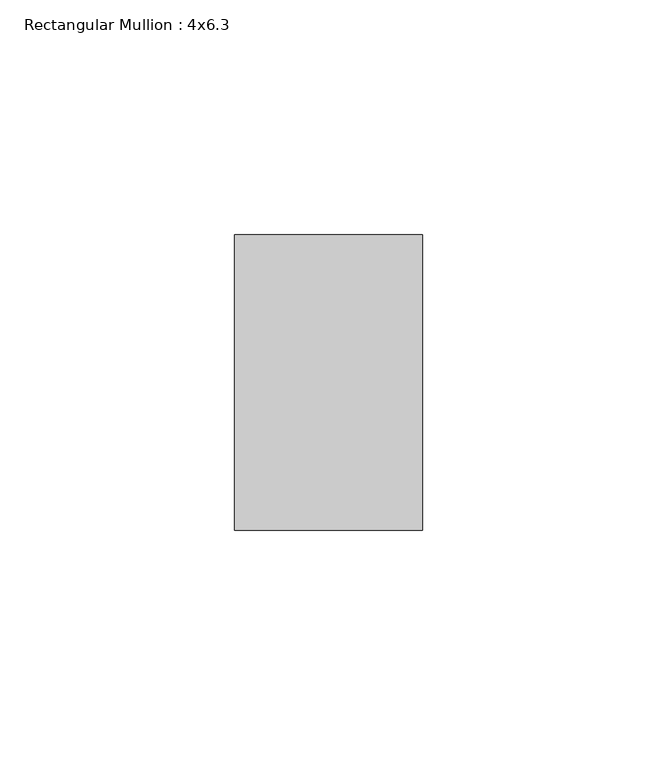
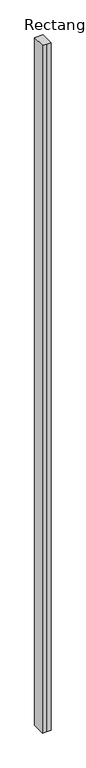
"""IFC4 building model written with IfcOpenShell, lengths in millimetres: member geometry, Rectangular Mullion : 4x6.3."""

from ifc_helpers import new_model, si_unit, frame, origin, place, context, project, spatial, polyline, outline, extrude, source, transform, mapped, element, save


def rectangular_mullion_4x6_3_50748488(model_context):
    return source(origin(), model_context, "Body", "SweptSolid", [
        extrude(outline(polyline([(-20.0, 20.0), (-20.0, 83.0), (20.0, 83.0), (20.0, 20.0), (0.0, 20.0), (-20.0, 20.0)])), frame((0.0, 0.0, -3394.3305617), z_axis=(0.0, 0.0, 1.0), x_axis=(1.0, 0.0, 0.0)), (0.0, 0.0, 1.0), 3394.3305617),
    ])


if __name__ == "__main__":
    model = new_model("IFC4")
    model_context = context("Model", 3, world=origin())
    ifc_project = project(units=[si_unit("LENGTHUNIT", "METRE", prefix="MILLI")], contexts=[model_context])
    site = spatial("IfcSite", under=ifc_project)
    building = spatial("IfcBuilding", under=site)
    placement = place(None, origin())
    rectangular_mullion_4x6_3_shape = rectangular_mullion_4x6_3_50748488(model_context)
    element("IfcMember", 1, ObjectType="Rectangular Mullion : 4x6.3", at=placement, inside=building, context=model_context, shape_type="MappedRepresentation", body=[
        mapped(rectangular_mullion_4x6_3_shape, transform((0.0, 0.0, 0.0), x_axis=(1.0, 0.0, 0.0), y_axis=(0.0, 1.0, 0.0), z_axis=(0.0, 0.0, 1.0))),
    ])
    save(model, "model.ifc")
